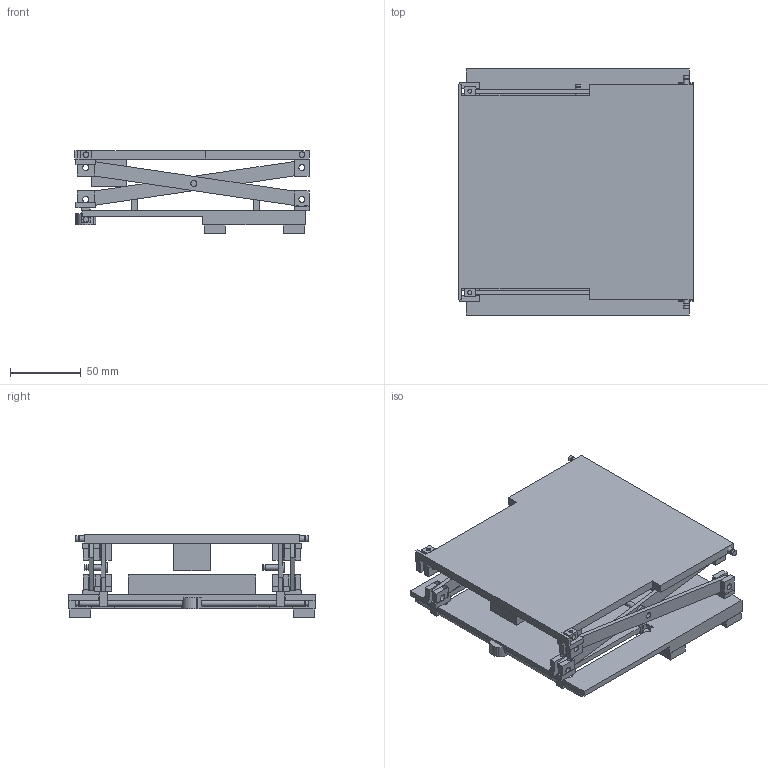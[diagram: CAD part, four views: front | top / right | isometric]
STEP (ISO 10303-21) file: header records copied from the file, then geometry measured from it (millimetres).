
FILE_DESCRIPTION(('Open CASCADE Model'),'2;1');
FILE_NAME('SCZ_asm_folded','2026-11-15T22:39:13',('Author'),( 'Open CASCADE'),'Open CASCADE STEP processor 8.0','build123d', 'Unknown');
FILE_SCHEMA(('AUTOMOTIVE_DESIGN { 1 0 10303 214 1 1 1 1 }'));
Length unit declared in the file: millimetre
Products named in the file (11): SCZ_asm_folded; BASE; ARM_B_R; SLB_R; SLT_R; POST_R; SHB; SHT; PLAT; CPIN_L; CPIN_R
Assembly tree (16 placements, depth 2):
  SCZ_asm_folded
    BASE
    ARM_B_R  x4
    SLB_R  x2
    SLT_R  x2
    POST_R  x2
    SHB
    SHT
    PLAT
    CPIN_L
    CPIN_R
Bounding box: 165 x 173.5 x 58.5 mm (x, y, z)
Volume: 380733.6 mm3; surface area: 152353.7 mm2
Topology: 16 solids, 16 shells, 421 faces, 1097 edges, 726 vertices
Faces by surface type: plane 323, cylinder 98
Full cylindrical faces by diameter (mm): 2.9 x8, 3.4 x24, 4 x15, 4.3 x28, 7 x2
Entity records: 21106 total; most frequent: CARTESIAN_POINT 5777, DIRECTION 2662, LINE 1630, VECTOR 1630, ORIENTED_EDGE 1544, PCURVE 1544, DEFINITIONAL_REPRESENTATION 1544, EDGE_CURVE 772
